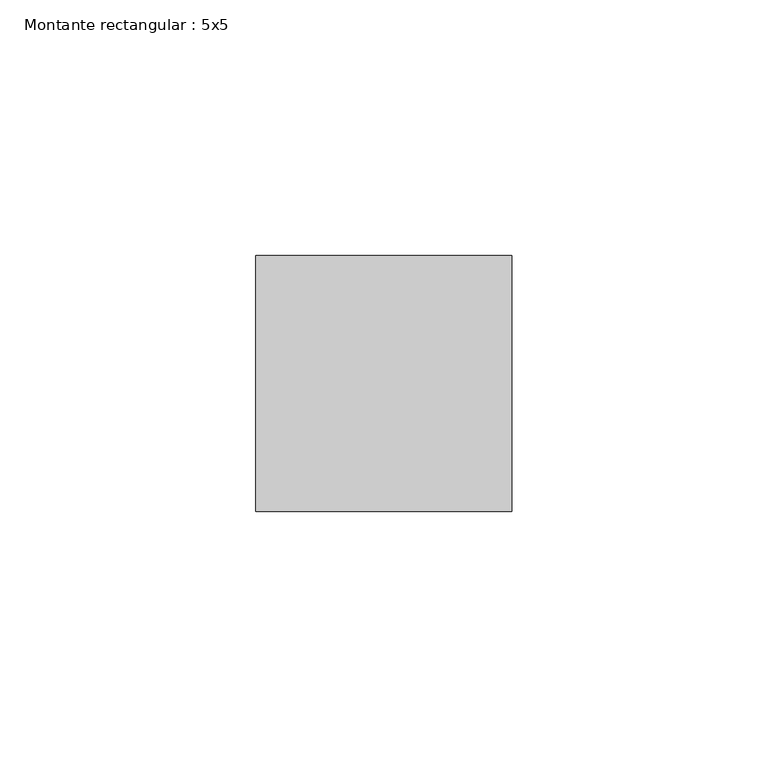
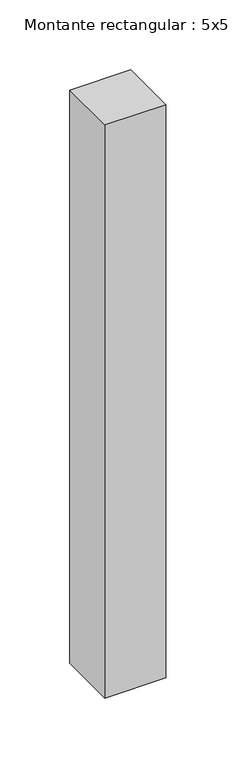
"""IFC4 building model written with IfcOpenShell, lengths in millimetres: member geometry, Montante rectangular : 5x5."""

from ifc_helpers import new_model, si_unit, frame, origin, place, context, project, spatial, polyline, outline, extrude, source, transform, mapped, element, save


def montante_rectangular_5x5_5d55378c(model_context):
    return source(origin(), model_context, "Body", "SweptSolid", [
        extrude(outline(polyline([(0.0, 25.0), (0.0, -25.0), (-50.0, -25.0), (-50.0, 25.0), (0.0, 25.0)])), frame((0.0, 0.0, -500.0), z_axis=(0.0, 0.0, 1.0), x_axis=(1.0, 0.0, 0.0)), (0.0, 0.0, 1.0), 500.0),
    ])


if __name__ == "__main__":
    model = new_model("IFC4")
    model_context = context("Model", 3, world=origin())
    ifc_project = project(units=[si_unit("LENGTHUNIT", "METRE", prefix="MILLI")], contexts=[model_context])
    site = spatial("IfcSite", under=ifc_project)
    building = spatial("IfcBuilding", under=site)
    placement = place(None, origin())
    montante_rectangular_5x5_shape = montante_rectangular_5x5_5d55378c(model_context)
    element("IfcMember", 1, ObjectType="Montante rectangular : 5x5", at=placement, inside=building, context=model_context, shape_type="MappedRepresentation", body=[
        mapped(montante_rectangular_5x5_shape, transform((0.0, 0.0, 0.0), x_axis=(1.0, 0.0, 0.0), y_axis=(0.0, 1.0, 0.0), z_axis=(0.0, 0.0, 1.0))),
    ])
    save(model, "model.ifc")
